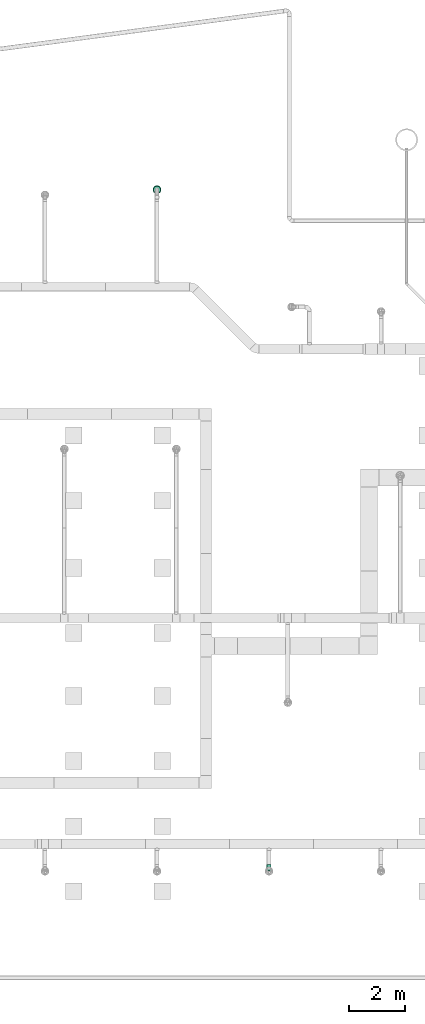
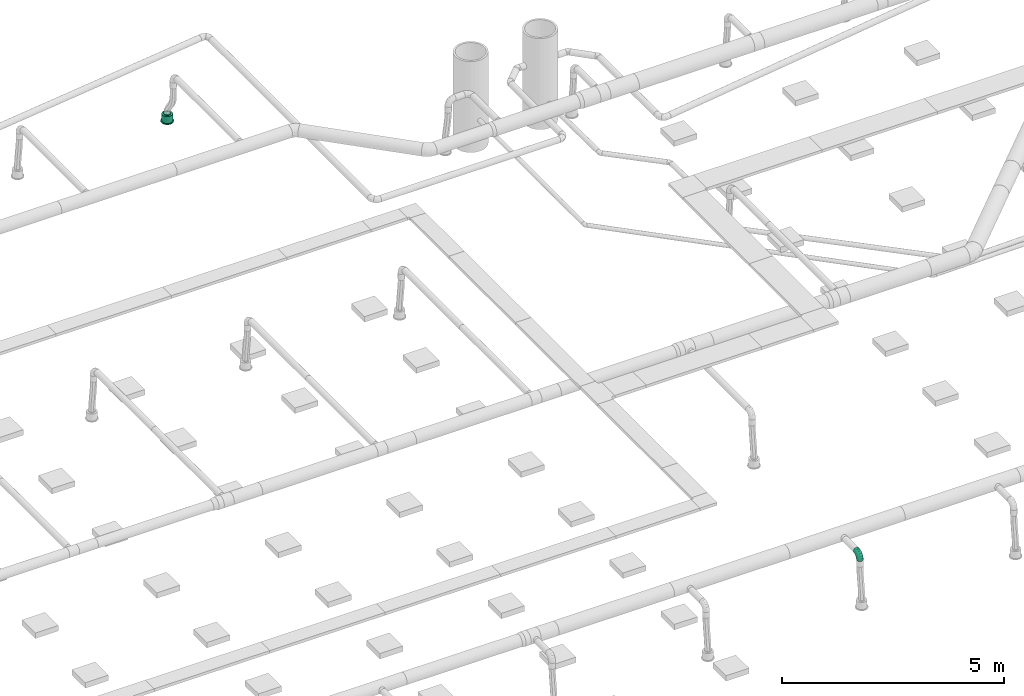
# One storey, part 54 of 374: 1 flow fitting, 1 flow terminal.
"""IFC2X3 building model written with IfcOpenShell, lengths in metres."""

from ifc_helpers import new_model, si_unit, direction, origin, place, context, subcontext, project, spatial, open_shell, surface_model, source, transform, mapped, element, save


model = new_model("IFC2X3")

# Units and contexts
model_context = context("Model", 3, precision=1e-05, world=origin(), true_north=direction((-0.4480736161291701, 0.8939966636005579)))
body_context = subcontext(model_context, "Body", "Model", "MODEL_VIEW")
ifc_project = project(units=[si_unit("LENGTHUNIT", "METRE"), si_unit("AREAUNIT", "SQUARE_METRE"), si_unit("VOLUMEUNIT", "CUBIC_METRE"), si_unit("PLANEANGLEUNIT", "RADIAN"), si_unit("THERMODYNAMICTEMPERATUREUNIT", "KELVIN"), si_unit("MASSUNIT", "GRAM", prefix="KILO"), si_unit("TIMEUNIT", "SECOND")], contexts=[model_context])

# Site, building, storey
site_placement = place(None, origin())
site = spatial("IfcSite", under=ifc_project, at=site_placement, Name="Site 1", CompositionType="ELEMENT")
building_placement = place(site_placement, origin())
building = spatial("IfcBuilding", under=site, at=building_placement, Name="Undefined", CompositionType="ELEMENT")
storey_placement = place(building_placement, origin())
storey = spatial("IfcBuildingStorey", under=building, at=storey_placement, Name="Rez de chauss\x8ee", CompositionType="ELEMENT", Elevation=0.0)

# Flow terminal
shared_shape_1 = source(origin(), body_context, "Body", "SurfaceModel", [
    surface_model("IfcFaceBasedSurfaceModel", [(0.0, 0.0, 0.0), (0.03915785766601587, 0.0, 0.0), (0.03915785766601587, 0.020000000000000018, 0.0), (3.552713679e-15, 0.020000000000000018, 0.0), (0.07698144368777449, 0.0, -0.010134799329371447), (0.07698144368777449, 0.020000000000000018, -0.010134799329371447), (0.11089314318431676, 0.0, -0.02971372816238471), (0.11089314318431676, 0.020000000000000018, -0.02971372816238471), (0.13858192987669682, 0.0, -0.05740251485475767), (0.13858192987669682, 0.020000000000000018, -0.05740251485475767), (0.15816085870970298, 0.0, -0.09131421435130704), (0.15816085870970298, 0.020000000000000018, -0.09131421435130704), (0.16829565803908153, 0.0, -0.12913780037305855), (0.16829565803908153, 0.020000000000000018, -0.12913780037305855), (0.16829565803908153, 0.0, -0.16829565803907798), (0.16829565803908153, 0.020000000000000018, -0.16829565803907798), (0.15816085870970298, 0.0, -0.20611924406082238), (0.15816085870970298, 0.020000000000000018, -0.20611924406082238), (0.13858192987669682, 0.0, -0.24003094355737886), (0.13858192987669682, 0.020000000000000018, -0.24003094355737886), (0.11089314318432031, 0.0, -0.2677197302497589), (0.11089314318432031, 0.020000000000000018, -0.2677197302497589), (0.07698144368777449, 0.0, -0.2872986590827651), (0.07698144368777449, 0.020000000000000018, -0.2872986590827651), (0.039157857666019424, 0.0, -0.29743345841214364), (0.039157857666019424, 0.020000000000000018, -0.29743345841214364), (3.552713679e-15, 0.0, -0.29743345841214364), (3.552713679e-15, 0.020000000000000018, -0.29743345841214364), (-0.03782358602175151, 0.0, -0.2872986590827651), (-0.03782358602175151, 0.020000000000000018, -0.2872986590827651), (-0.07173528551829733, 0.0, -0.2677197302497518), (-0.07173528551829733, 0.020000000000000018, -0.2677197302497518), (-0.0994240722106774, 0.0, -0.24003094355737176), (-0.0994240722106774, 0.020000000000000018, -0.24003094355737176), (-0.11900300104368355, 0.0, -0.2061192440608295), (-0.11900300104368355, 0.020000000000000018, -0.2061192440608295), (-0.1291378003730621, 0.0, -0.16829565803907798), (-0.1291378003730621, 0.020000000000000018, -0.16829565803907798), (-0.1291378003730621, 0.0, -0.12913780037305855), (-0.1291378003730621, 0.020000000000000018, -0.12913780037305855), (-0.11900300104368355, 0.0, -0.09131421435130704), (-0.11900300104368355, 0.020000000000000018, -0.09131421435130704), (-0.0994240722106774, 0.0, -0.05740251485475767), (-0.0994240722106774, 0.020000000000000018, -0.05740251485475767), (-0.07173528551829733, 0.0, -0.029713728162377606), (-0.07173528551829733, 0.020000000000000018, -0.029713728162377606), (-0.03782358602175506, 0.0, -0.010134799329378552), (-0.03782358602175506, 0.020000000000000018, -0.010134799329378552), (0.019578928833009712, 0.0, -0.14871672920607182), (0.019578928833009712, 0.020000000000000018, -0.14871672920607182), (0.003263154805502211, 0.020000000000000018, -0.02478612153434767), (0.035894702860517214, 0.020000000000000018, -0.02478612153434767), (0.035894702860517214, 0.20999999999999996, -0.02478612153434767), (0.003263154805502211, 0.20999999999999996, -0.02478612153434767), (0.06741435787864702, 0.020000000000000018, -0.033231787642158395), (0.06741435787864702, 0.20999999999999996, -0.033231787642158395), (0.0956741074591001, 0.020000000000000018, -0.04954756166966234), (0.0956741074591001, 0.20999999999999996, -0.04954756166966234), (0.11874809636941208, 0.020000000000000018, -0.07262155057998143), (0.11874809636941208, 0.20999999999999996, -0.07262155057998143), (0.13506387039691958, 0.020000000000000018, -0.10088130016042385), (0.13506387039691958, 0.20999999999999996, -0.10088130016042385), (0.1435095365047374, 0.020000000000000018, -0.13240095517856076), (0.1435095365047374, 0.20999999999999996, -0.13240095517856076), (0.1435095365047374, 0.020000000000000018, -0.16503250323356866), (0.1435095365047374, 0.20999999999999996, -0.16503250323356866), (0.13506387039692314, 0.020000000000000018, -0.19655215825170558), (0.13506387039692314, 0.20999999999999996, -0.19655215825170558), (0.11874809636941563, 0.020000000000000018, -0.2248119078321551), (0.11874809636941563, 0.20999999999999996, -0.2248119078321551), (0.09567410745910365, 0.020000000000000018, -0.24788589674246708), (0.09567410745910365, 0.20999999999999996, -0.24788589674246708), (0.06741435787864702, 0.020000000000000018, -0.26420167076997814), (0.06741435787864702, 0.20999999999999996, -0.26420167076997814), (0.035894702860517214, 0.020000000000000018, -0.27264733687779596), (0.035894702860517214, 0.20999999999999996, -0.27264733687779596), (0.0032631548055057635, 0.020000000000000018, -0.27264733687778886), (0.0032631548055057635, 0.20999999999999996, -0.27264733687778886), (-0.028256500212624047, 0.020000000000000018, -0.26420167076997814), (-0.028256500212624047, 0.20999999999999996, -0.26420167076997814), (-0.05651624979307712, 0.020000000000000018, -0.2478858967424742), (-0.05651624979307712, 0.20999999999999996, -0.2478858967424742), (-0.07959023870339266, 0.020000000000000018, -0.2248119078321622), (-0.07959023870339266, 0.20999999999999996, -0.2248119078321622), (-0.09590601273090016, 0.020000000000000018, -0.19655215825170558), (-0.09590601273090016, 0.20999999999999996, -0.19655215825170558), (-0.10435167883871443, 0.020000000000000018, -0.16503250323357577), (-0.10435167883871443, 0.20999999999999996, -0.16503250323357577), (-0.10435167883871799, 0.020000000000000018, -0.13240095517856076), (-0.10435167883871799, 0.20999999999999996, -0.13240095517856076), (-0.09590601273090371, 0.020000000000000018, -0.10088130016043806), (-0.09590601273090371, 0.20999999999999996, -0.10088130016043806), (-0.07959023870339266, 0.020000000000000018, -0.07262155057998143), (-0.07959023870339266, 0.20999999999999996, -0.07262155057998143), (-0.056516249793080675, 0.020000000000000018, -0.04954756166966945), (-0.056516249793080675, 0.20999999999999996, -0.04954756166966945), (-0.028256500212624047, 0.020000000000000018, -0.033231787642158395), (-0.028256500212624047, 0.20999999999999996, -0.033231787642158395), (0.019578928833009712, 0.20999999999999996, -0.14871672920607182), (0.009136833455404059, 0.20999999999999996, -0.06940114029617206), (0.030021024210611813, 0.20999999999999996, -0.06940114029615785), (0.030021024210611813, 0.22999999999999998, -0.06940114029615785), (0.009136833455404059, 0.22999999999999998, -0.06940114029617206), (0.05019360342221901, 0.20999999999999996, -0.07480636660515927), (0.05019360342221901, 0.22999999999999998, -0.07480636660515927), (0.06827984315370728, 0.20999999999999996, -0.08524846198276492), (0.06827984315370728, 0.22999999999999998, -0.08524846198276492), (0.0830471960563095, 0.20999999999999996, -0.10001581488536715), (0.0830471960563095, 0.22999999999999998, -0.10001581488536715), (0.0934892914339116, 0.20999999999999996, -0.11810205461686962), (0.0934892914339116, 0.22999999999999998, -0.11810205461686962), (0.09889451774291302, 0.20999999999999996, -0.13827463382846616), (0.09889451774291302, 0.22999999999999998, -0.13827463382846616), (0.09889451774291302, 0.20999999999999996, -0.15915882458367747), (0.09889451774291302, 0.22999999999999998, -0.15915882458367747), (0.09348929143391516, 0.20999999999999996, -0.179331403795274), (0.09348929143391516, 0.22999999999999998, -0.179331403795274), (0.0830471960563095, 0.20999999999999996, -0.19741764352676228), (0.0830471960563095, 0.22999999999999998, -0.19741764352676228), (0.06827984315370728, 0.20999999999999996, -0.2121849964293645), (0.06827984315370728, 0.22999999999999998, -0.2121849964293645), (0.05019360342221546, 0.20999999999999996, -0.22262709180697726), (0.05019360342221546, 0.22999999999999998, -0.22262709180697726), (0.030021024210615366, 0.20999999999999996, -0.22803231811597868), (0.030021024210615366, 0.22999999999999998, -0.22803231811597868), (0.009136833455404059, 0.20999999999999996, -0.22803231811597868), (0.009136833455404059, 0.22999999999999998, -0.22803231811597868), (-0.011035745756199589, 0.20999999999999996, -0.22262709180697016), (-0.011035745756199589, 0.22999999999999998, -0.22262709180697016), (-0.0291219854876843, 0.20999999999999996, -0.2121849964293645), (-0.0291219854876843, 0.22999999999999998, -0.2121849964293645), (-0.043889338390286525, 0.20999999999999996, -0.19741764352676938), (-0.043889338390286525, 0.22999999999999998, -0.19741764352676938), (-0.05433143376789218, 0.20999999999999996, -0.17933140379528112), (-0.05433143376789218, 0.22999999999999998, -0.17933140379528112), (-0.05973666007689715, 0.20999999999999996, -0.15915882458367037), (-0.05973666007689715, 0.22999999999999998, -0.15915882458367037), (-0.0597366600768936, 0.20999999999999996, -0.13827463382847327), (-0.0597366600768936, 0.22999999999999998, -0.13827463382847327), (-0.05433143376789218, 0.20999999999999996, -0.11810205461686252), (-0.05433143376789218, 0.22999999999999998, -0.11810205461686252), (-0.043889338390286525, 0.20999999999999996, -0.10001581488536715), (-0.043889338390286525, 0.22999999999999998, -0.10001581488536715), (-0.02912198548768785, 0.20999999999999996, -0.08524846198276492), (-0.02912198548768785, 0.22999999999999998, -0.08524846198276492), (-0.011035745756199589, 0.20999999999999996, -0.07480636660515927), (-0.011035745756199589, 0.22999999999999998, -0.07480636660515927)], [open_shell([[[0, 1, 2, 3]], [[1, 4, 5, 2]], [[4, 6, 7, 5]], [[6, 8, 9, 7]], [[8, 10, 11, 9]], [[10, 12, 13, 11]], [[12, 14, 15, 13]], [[14, 16, 17, 15]], [[16, 18, 19, 17]], [[18, 20, 21, 19]], [[20, 22, 23, 21]], [[22, 24, 25, 23]], [[24, 26, 27, 25]], [[26, 28, 29, 27]], [[28, 30, 31, 29]], [[30, 32, 33, 31]], [[32, 34, 35, 33]], [[34, 36, 37, 35]], [[36, 38, 39, 37]], [[38, 40, 41, 39]], [[40, 42, 43, 41]], [[42, 44, 45, 43]], [[44, 46, 47, 45]], [[46, 0, 3, 47]], [[48, 1, 0]], [[48, 4, 1]], [[48, 6, 4]], [[48, 8, 6]], [[48, 10, 8]], [[48, 12, 10]], [[48, 14, 12]], [[48, 16, 14]], [[48, 18, 16]], [[48, 20, 18]], [[48, 22, 20]], [[48, 24, 22]], [[48, 26, 24]], [[48, 28, 26]], [[48, 30, 28]], [[48, 32, 30]], [[48, 34, 32]], [[48, 36, 34]], [[48, 38, 36]], [[48, 40, 38]], [[48, 42, 40]], [[48, 44, 42]], [[48, 46, 44]], [[48, 0, 46]], [[49, 47, 3]], [[49, 45, 47]], [[49, 43, 45]], [[49, 41, 43]], [[49, 39, 41]], [[49, 37, 39]], [[49, 35, 37]], [[49, 33, 35]], [[49, 31, 33]], [[49, 29, 31]], [[49, 27, 29]], [[49, 25, 27]], [[49, 23, 25]], [[49, 21, 23]], [[49, 19, 21]], [[49, 17, 19]], [[49, 15, 17]], [[49, 13, 15]], [[49, 11, 13]], [[49, 9, 11]], [[49, 7, 9]], [[49, 5, 7]], [[49, 2, 5]], [[49, 3, 2]], [[50, 51, 52, 53]], [[51, 54, 55, 52]], [[54, 56, 57, 55]], [[56, 58, 59, 57]], [[58, 60, 61, 59]], [[60, 62, 63, 61]], [[62, 64, 65, 63]], [[64, 66, 67, 65]], [[66, 68, 69, 67]], [[68, 70, 71, 69]], [[70, 72, 73, 71]], [[72, 74, 75, 73]], [[74, 76, 77, 75]], [[76, 78, 79, 77]], [[78, 80, 81, 79]], [[80, 82, 83, 81]], [[82, 84, 85, 83]], [[84, 86, 87, 85]], [[86, 88, 89, 87]], [[88, 90, 91, 89]], [[90, 92, 93, 91]], [[92, 94, 95, 93]], [[94, 96, 97, 95]], [[96, 50, 53, 97]], [[49, 51, 50]], [[49, 54, 51]], [[49, 56, 54]], [[49, 58, 56]], [[49, 60, 58]], [[49, 62, 60]], [[49, 64, 62]], [[49, 66, 64]], [[49, 68, 66]], [[49, 70, 68]], [[49, 72, 70]], [[49, 74, 72]], [[49, 76, 74]], [[49, 78, 76]], [[49, 80, 78]], [[49, 82, 80]], [[49, 84, 82]], [[49, 86, 84]], [[49, 88, 86]], [[49, 90, 88]], [[49, 92, 90]], [[49, 94, 92]], [[49, 96, 94]], [[49, 50, 96]], [[98, 97, 53]], [[98, 95, 97]], [[98, 93, 95]], [[98, 91, 93]], [[98, 89, 91]], [[98, 87, 89]], [[98, 85, 87]], [[98, 83, 85]], [[98, 81, 83]], [[98, 79, 81]], [[98, 77, 79]], [[98, 75, 77]], [[98, 73, 75]], [[98, 71, 73]], [[98, 69, 71]], [[98, 67, 69]], [[98, 65, 67]], [[98, 63, 65]], [[98, 61, 63]], [[98, 59, 61]], [[98, 57, 59]], [[98, 55, 57]], [[98, 52, 55]], [[98, 53, 52]], [[99, 100, 101, 102]], [[100, 103, 104, 101]], [[103, 105, 106, 104]], [[105, 107, 108, 106]], [[107, 109, 110, 108]], [[109, 111, 112, 110]], [[111, 113, 114, 112]], [[113, 115, 116, 114]], [[115, 117, 118, 116]], [[117, 119, 120, 118]], [[119, 121, 122, 120]], [[121, 123, 124, 122]], [[123, 125, 126, 124]], [[125, 127, 128, 126]], [[127, 129, 130, 128]], [[129, 131, 132, 130]], [[131, 133, 134, 132]], [[133, 135, 136, 134]], [[135, 137, 138, 136]], [[137, 139, 140, 138]], [[139, 141, 142, 140]], [[141, 143, 144, 142]], [[143, 145, 146, 144]], [[145, 99, 102, 146]]])]),
])
flow_terminal_placement = place(storey_placement, origin())
element("IfcFlowTerminal", 1, at=flow_terminal_placement, inside=storey, Name="Air diffuseur - bouche", ObjectType="Air diffuseur - bouche", context=body_context, shape_type="MappedRepresentation", body=[
    mapped(shared_shape_1, transform((26.290000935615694, 26.069045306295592, 2.38), x_axis=(0.9914448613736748, 0.13052619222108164, 0.0), y_axis=(0.0, 0.0, 1.0), z_axis=(0.13052619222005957, -0.9914448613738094, 0.0))),
])

# Flow fitting
shared_shape_2 = source(origin(), body_context, "Body", "SurfaceModel", [
    surface_model("IfcFaceBasedSurfaceModel", [(0.06265257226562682, -8.8817842e-16, 0.0), (0.062296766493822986, 0.02088115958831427, -7.105427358e-15), (0.0003558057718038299, 0.020881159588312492, 7.105427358e-15), (0.0, 0.0, 0.0), (-0.059474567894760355, 0.022956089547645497, -0.015896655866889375), (-0.06051773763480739, 0.002098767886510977, -0.01607928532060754), (-0.11311701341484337, 0.02696454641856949, -0.04660663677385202), (-0.11477645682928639, 0.006153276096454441, -0.04714207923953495), (-0.15691588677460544, 0.0326333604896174, -0.09003710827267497), (-0.15907851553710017, 0.01188721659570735, -0.09107150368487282), (-0.18788636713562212, 0.03957621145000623, -0.14322835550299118), (-0.1904048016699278, 0.01890983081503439, -0.14487384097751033), (-0.2039178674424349, 0.04731995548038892, -0.20255548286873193), (-0.20662048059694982, 0.026742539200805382, -0.20488255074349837), (0.061253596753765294, 0.04103889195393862, -0.0053597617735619), (0.0013989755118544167, 0.04103889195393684, -0.005359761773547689), (-0.05641614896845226, 0.04304393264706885, -0.02072097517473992), (-0.10825177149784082, 0.04691737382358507, -0.050396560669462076), (-0.15057538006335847, 0.05239524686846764, -0.09236417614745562), (-0.18050269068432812, 0.05910424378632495, -0.14376379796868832), (-0.19599420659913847, 0.06658715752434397, -0.20109262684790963), (0.05959415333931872, 0.05909948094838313, -0.01571402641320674), (0.003058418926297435, 0.05909948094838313, -0.01571402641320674), (-0.05155090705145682, 0.06099334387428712, -0.030223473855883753), (-0.10051228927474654, 0.06465200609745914, -0.058253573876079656), (-0.1404890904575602, 0.0698261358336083, -0.09789412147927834), (-0.16875695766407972, 0.0761631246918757, -0.14644367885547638), (-0.18338948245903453, 0.08323111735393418, -0.2005936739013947), (0.057431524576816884, 0.07383212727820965, -0.030357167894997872), (0.005221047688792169, 0.07383212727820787, -0.03035716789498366), (-0.0452104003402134, 0.07558110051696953, -0.04375657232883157), (-0.09042599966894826, 0.07895985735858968, -0.06964223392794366), (-0.12734438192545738, 0.08373814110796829, -0.10625008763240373), (-0.15344962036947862, 0.08959031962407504, -0.15108536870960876), (-0.16696268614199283, 0.0961175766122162, -0.20109262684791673), (0.054913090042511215, 0.0842328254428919, -0.048291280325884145), (0.007739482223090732, 0.08423282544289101, -0.04829128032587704), (-0.037826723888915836, 0.08581307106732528, -0.06039801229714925), (-0.07868026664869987, 0.08886587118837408, -0.08378642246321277), (-0.11203704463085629, 0.09318318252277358, -0.11686262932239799), (-0.13562384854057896, 0.09847078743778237, -0.1573725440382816), (-0.14783327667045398, 0.10436834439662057, -0.20255548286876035), (0.05221047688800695, 0.0895927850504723, -0.06829418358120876), (0.010442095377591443, 0.08959278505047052, -0.06829418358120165), (-0.029903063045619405, 0.09099196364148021, -0.07901370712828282), (-0.06607554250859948, 0.09369496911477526, -0.0997222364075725), (-0.0956102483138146, 0.0975175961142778, -0.12900851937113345), (-0.11649443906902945, 0.10219933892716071, -0.16487674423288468), (-0.12730489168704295, 0.1074211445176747, -0.2048825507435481), (0.04950786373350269, 0.08954673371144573, -0.08900271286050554), (0.013144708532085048, 0.08954673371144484, -0.08900271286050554), (-0.02197940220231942, 0.09076484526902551, -0.09833502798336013), (-0.05347081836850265, 0.09311805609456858, -0.11636367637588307), (-0.0791834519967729, 0.09644599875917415, -0.14186003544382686), (-0.09736502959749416, 0.10052187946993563, -0.17308657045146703), (-0.10677650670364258, 0.1050679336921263, -0.20791524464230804), (0.04698942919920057, 0.08409780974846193, -0.10900561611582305), (0.015663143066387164, 0.08409780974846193, -0.10900561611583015), (-0.014595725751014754, 0.08514719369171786, -0.11704525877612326), (-0.0417250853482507, 0.0871744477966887, -0.13257665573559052), (-0.06387611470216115, 0.09004141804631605, -0.15454136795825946), (-0.07953925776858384, 0.09355272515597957, -0.1814425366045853), (-0.08764709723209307, 0.09746907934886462, -0.21144689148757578), (0.04482680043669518, 0.0736173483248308, -0.12693972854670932), (0.017825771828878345, 0.0736173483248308, -0.12693972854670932), (-0.008255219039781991, 0.07452184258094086, -0.13386932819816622), (-0.03163879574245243, 0.0762691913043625, -0.14725628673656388), (-0.050731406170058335, 0.07874031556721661, -0.1661883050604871), (-0.06423192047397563, 0.08176681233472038, -0.18937519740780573), (-0.07122030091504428, 0.08514243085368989, -0.21523681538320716), (0.04316735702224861, 0.058819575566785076, -0.14158287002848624), (0.019485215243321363, 0.058819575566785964, -0.14158287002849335), (-0.0033899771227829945, 0.05961289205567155, -0.14766070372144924), (-0.02389931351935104, 0.06114546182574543, -0.15940217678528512), (-0.04064511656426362, 0.06331284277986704, -0.17600712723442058), (-0.052486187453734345, 0.06596733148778, -0.19634395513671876), (-0.05861557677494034, 0.06892802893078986, -0.2190267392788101), (0.04212418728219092, 0.040712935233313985, -0.15193713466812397), (0.020528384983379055, 0.040712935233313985, -0.15193713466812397), (-0.0003315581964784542, 0.041436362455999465, -0.15747952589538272), (-0.019034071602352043, 0.04283391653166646, -0.16818660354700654), (-0.03430460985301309, 0.04481035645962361, -0.1833286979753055), (-0.04510251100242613, 0.047230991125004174, -0.20187390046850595), (-0.05069191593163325, 0.04993085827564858, -0.22255838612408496), (0.04176838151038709, 0.02053136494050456, -0.15729689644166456), (0.020884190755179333, 0.02053136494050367, -0.15729689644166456), (0.0007116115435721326, 0.021230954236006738, -0.16265665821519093), (-0.017374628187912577, 0.022582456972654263, -0.17301092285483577), (-0.03214198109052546, 0.024493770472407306, -0.1876540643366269), (-0.042584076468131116, 0.026834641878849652, -0.20558817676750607), (-0.04798930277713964, 0.02944554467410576, -0.22559108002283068), (0.04212418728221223, -0.000349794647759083, -0.15729689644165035), (0.020528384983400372, -0.000349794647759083, -0.15729689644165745), (-0.0003315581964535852, 0.00037363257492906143, -0.1628392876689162), (-0.019034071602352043, 0.0017711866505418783, -0.17354636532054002), (-0.03430460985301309, 0.0037476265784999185, -0.18868845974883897), (-0.04510251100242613, 0.00616826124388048, -0.20723366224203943), (-0.05069191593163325, 0.008868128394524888, -0.22791814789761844), (0.04316735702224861, -0.020507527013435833, -0.15193713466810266), (0.019485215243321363, -0.020507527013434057, -0.15193713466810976), (-0.0033899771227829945, -0.019714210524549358, -0.15801496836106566), (-0.02389931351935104, -0.01818164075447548, -0.16975644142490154), (-0.04064511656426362, -0.01601425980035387, -0.186361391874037), (-0.052486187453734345, -0.013359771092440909, -0.20669821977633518), (-0.05861557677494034, -0.010399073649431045, -0.22938100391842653), (0.04482680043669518, -0.03856811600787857, -0.1415828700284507), (0.017825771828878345, -0.03856811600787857, -0.1415828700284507), (-0.008255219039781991, -0.03766362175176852, -0.1485124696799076), (-0.03163879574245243, -0.03591627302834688, -0.16189942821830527), (-0.050731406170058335, -0.03344514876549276, -0.1808314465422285), (-0.06423192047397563, -0.030418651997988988, -0.20401833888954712), (-0.07122030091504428, -0.027043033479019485, -0.22987995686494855), (0.04698942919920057, -0.05330076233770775, -0.12693972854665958), (0.015663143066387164, -0.05330076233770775, -0.12693972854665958), (-0.014595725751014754, -0.05225137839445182, -0.1349793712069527), (-0.0417250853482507, -0.05022412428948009, -0.15051076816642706), (-0.06387611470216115, -0.047357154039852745, -0.172475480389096), (-0.07953925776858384, -0.043845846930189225, -0.19937664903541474), (-0.08764709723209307, -0.03992949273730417, -0.2293810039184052), (0.04950786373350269, -0.06370146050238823, -0.10900561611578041), (0.013144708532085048, -0.06370146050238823, -0.10900561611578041), (-0.02197940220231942, -0.06248334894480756, -0.11833793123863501), (-0.05347081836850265, -0.06013013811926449, -0.13636657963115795), (-0.0791834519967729, -0.05680219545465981, -0.16186293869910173), (-0.09736502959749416, -0.05272631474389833, -0.1930894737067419), (-0.10677650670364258, -0.04818026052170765, -0.2279181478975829), (0.05221047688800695, -0.06906142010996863, -0.08900271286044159), (0.010442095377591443, -0.06906142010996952, -0.08900271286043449), (-0.029903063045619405, -0.06766224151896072, -0.09972223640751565), (-0.06607554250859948, -0.06495923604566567, -0.12043076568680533), (-0.0956102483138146, -0.06113660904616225, -0.14971704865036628), (-0.11649443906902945, -0.05645486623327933, -0.1855852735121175), (-0.12730489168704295, -0.05123306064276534, -0.22559108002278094), (0.054913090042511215, -0.06901536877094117, -0.06829418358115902), (0.007739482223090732, -0.06901536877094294, -0.06829418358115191), (-0.037826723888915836, -0.06743512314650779, -0.08040091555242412), (-0.07868026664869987, -0.06438232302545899, -0.10378932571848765), (-0.11203704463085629, -0.06006501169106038, -0.13686553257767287), (-0.13562384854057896, -0.0547774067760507, -0.17737544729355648), (-0.14783327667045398, -0.04887984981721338, -0.22255838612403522), (0.057431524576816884, -0.06356644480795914, -0.0482912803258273), (0.005221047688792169, -0.06356644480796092, -0.04829128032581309), (-0.0452104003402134, -0.061817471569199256, -0.0616906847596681), (-0.09042599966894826, -0.05843871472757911, -0.0875763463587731), (-0.12734438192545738, -0.05366043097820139, -0.12418420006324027), (-0.15344962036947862, -0.04780825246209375, -0.1690194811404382), (-0.16696268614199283, -0.041280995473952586, -0.21902673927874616), (0.05959415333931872, -0.05308598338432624, -0.030357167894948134), (0.003058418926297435, -0.05308598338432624, -0.030357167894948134), (-0.05155090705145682, -0.05119212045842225, -0.04486661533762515), (-0.10051228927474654, -0.04753345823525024, -0.07289671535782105), (-0.1404890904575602, -0.04235932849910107, -0.11253726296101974), (-0.16875695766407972, -0.03602233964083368, -0.16108682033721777), (-0.18338948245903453, -0.02895434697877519, -0.2152368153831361), (0.061253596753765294, -0.03828821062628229, -0.015714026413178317), (0.0013989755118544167, -0.03828821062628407, -0.015714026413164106), (-0.05641614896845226, -0.03628316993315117, -0.031075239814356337), (-0.10825177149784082, -0.03240972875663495, -0.06075082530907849), (-0.15057538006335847, -0.026931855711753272, -0.10271844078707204), (-0.18050269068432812, -0.02022285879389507, -0.15411806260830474), (-0.19599420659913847, -0.012739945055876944, -0.21144689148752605), (0.062296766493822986, -0.020181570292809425, -0.005359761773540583), (0.0003558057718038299, -0.020181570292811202, -0.0053597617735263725), (-0.059474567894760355, -0.018106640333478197, -0.021256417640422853), (-0.11311701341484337, -0.014098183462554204, -0.051966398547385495), (-0.15691588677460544, -0.00842936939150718, -0.09539687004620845), (-0.18788636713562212, -0.0014865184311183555, -0.14858811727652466), (-0.2039178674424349, 0.006257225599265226, -0.2079152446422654)], [open_shell([[[0, 1, 2, 3]], [[3, 2, 4, 5]], [[5, 4, 6, 7]], [[7, 6, 8, 9]], [[9, 8, 10, 11]], [[11, 10, 12, 13]], [[1, 14, 15, 2]], [[2, 15, 16, 4]], [[4, 16, 17, 6]], [[6, 17, 18, 8]], [[8, 18, 19, 10]], [[10, 19, 20, 12]], [[14, 21, 22, 15]], [[15, 22, 23, 16]], [[16, 23, 24, 17]], [[17, 24, 25, 18]], [[18, 25, 26, 19]], [[19, 26, 27, 20]], [[21, 28, 29, 22]], [[22, 29, 30, 23]], [[23, 30, 31, 24]], [[24, 31, 32, 25]], [[25, 32, 33, 26]], [[26, 33, 34, 27]], [[28, 35, 36, 29]], [[29, 36, 37, 30]], [[30, 37, 38, 31]], [[31, 38, 39, 32]], [[32, 39, 40, 33]], [[33, 40, 41, 34]], [[35, 42, 43, 36]], [[36, 43, 44, 37]], [[37, 44, 45, 38]], [[38, 45, 46, 39]], [[39, 46, 47, 40]], [[40, 47, 48, 41]], [[42, 49, 50, 43]], [[43, 50, 51, 44]], [[44, 51, 52, 45]], [[45, 52, 53, 46]], [[46, 53, 54, 47]], [[47, 54, 55, 48]], [[49, 56, 57, 50]], [[50, 57, 58, 51]], [[51, 58, 59, 52]], [[52, 59, 60, 53]], [[53, 60, 61, 54]], [[54, 61, 62, 55]], [[56, 63, 64, 57]], [[57, 64, 65, 58]], [[58, 65, 66, 59]], [[59, 66, 67, 60]], [[60, 67, 68, 61]], [[61, 68, 69, 62]], [[63, 70, 71, 64]], [[64, 71, 72, 65]], [[65, 72, 73, 66]], [[66, 73, 74, 67]], [[67, 74, 75, 68]], [[68, 75, 76, 69]], [[70, 77, 78, 71]], [[71, 78, 79, 72]], [[72, 79, 80, 73]], [[73, 80, 81, 74]], [[74, 81, 82, 75]], [[75, 82, 83, 76]], [[77, 84, 85, 78]], [[78, 85, 86, 79]], [[79, 86, 87, 80]], [[80, 87, 88, 81]], [[81, 88, 89, 82]], [[82, 89, 90, 83]], [[84, 91, 92, 85]], [[85, 92, 93, 86]], [[86, 93, 94, 87]], [[87, 94, 95, 88]], [[88, 95, 96, 89]], [[89, 96, 97, 90]], [[91, 98, 99, 92]], [[92, 99, 100, 93]], [[93, 100, 101, 94]], [[94, 101, 102, 95]], [[95, 102, 103, 96]], [[96, 103, 104, 97]], [[98, 105, 106, 99]], [[99, 106, 107, 100]], [[100, 107, 108, 101]], [[101, 108, 109, 102]], [[102, 109, 110, 103]], [[103, 110, 111, 104]], [[105, 112, 113, 106]], [[106, 113, 114, 107]], [[107, 114, 115, 108]], [[108, 115, 116, 109]], [[109, 116, 117, 110]], [[110, 117, 118, 111]], [[112, 119, 120, 113]], [[113, 120, 121, 114]], [[114, 121, 122, 115]], [[115, 122, 123, 116]], [[116, 123, 124, 117]], [[117, 124, 125, 118]], [[119, 126, 127, 120]], [[120, 127, 128, 121]], [[121, 128, 129, 122]], [[122, 129, 130, 123]], [[123, 130, 131, 124]], [[124, 131, 132, 125]], [[126, 133, 134, 127]], [[127, 134, 135, 128]], [[128, 135, 136, 129]], [[129, 136, 137, 130]], [[130, 137, 138, 131]], [[131, 138, 139, 132]], [[133, 140, 141, 134]], [[134, 141, 142, 135]], [[135, 142, 143, 136]], [[136, 143, 144, 137]], [[137, 144, 145, 138]], [[138, 145, 146, 139]], [[140, 147, 148, 141]], [[141, 148, 149, 142]], [[142, 149, 150, 143]], [[143, 150, 151, 144]], [[144, 151, 152, 145]], [[145, 152, 153, 146]], [[147, 154, 155, 148]], [[148, 155, 156, 149]], [[149, 156, 157, 150]], [[150, 157, 158, 151]], [[151, 158, 159, 152]], [[152, 159, 160, 153]], [[154, 161, 162, 155]], [[155, 162, 163, 156]], [[156, 163, 164, 157]], [[157, 164, 165, 158]], [[158, 165, 166, 159]], [[159, 166, 167, 160]], [[161, 0, 3, 162]], [[162, 3, 5, 163]], [[163, 5, 7, 164]], [[164, 7, 9, 165]], [[165, 9, 11, 166]], [[166, 11, 13, 167]]])]),
])
flow_fitting_placement = place(storey_placement, origin())
element("IfcFlowFitting", 2, at=flow_fitting_placement, inside=storey, Name="Coude", ObjectType="Coude", context=body_context, shape_type="MappedRepresentation", body=[
    mapped(shared_shape_2, transform((30.290000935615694, 1.8881775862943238, 3.702116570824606), x_axis=(9.56658874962e-13, -0.13052619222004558, -0.9914448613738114), y_axis=(0.9915887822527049, 0.12832103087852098, -0.01689378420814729), z_axis=(0.12942830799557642, -0.983105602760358, 0.1294283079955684))),
])

save(model, "model.ifc")
